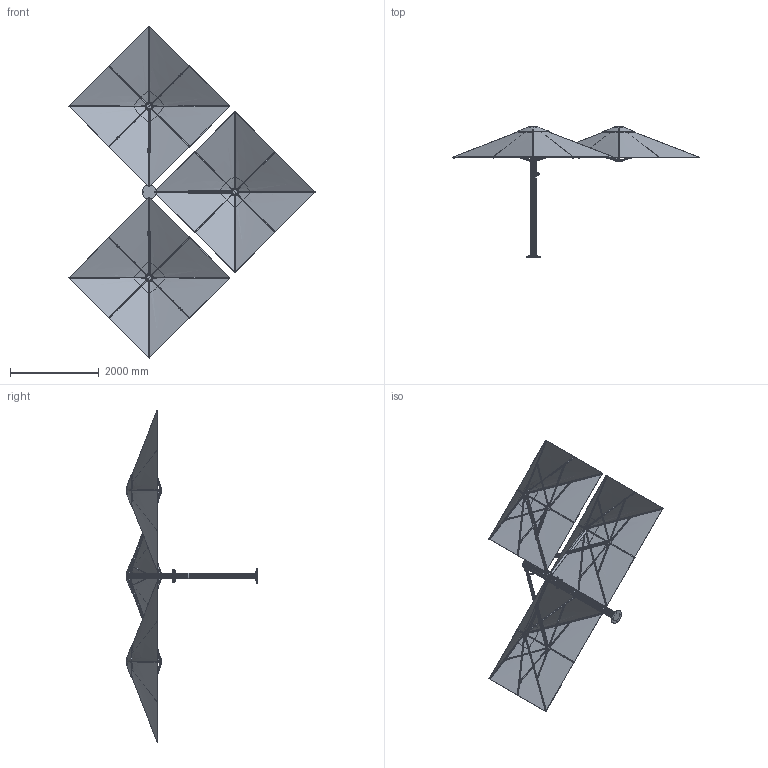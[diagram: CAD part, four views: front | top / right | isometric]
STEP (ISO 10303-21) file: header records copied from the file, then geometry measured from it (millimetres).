
FILE_DESCRIPTION (( 'STEP AP203' ), '1' );
FILE_NAME ('Unity 2.5M CNR SQ Trio.STEP', '2020-06-18T22:04:12', ( '' ), ( '' ), 'SwSTEP 2.0', 'SolidWorks 2017', '' );
FILE_SCHEMA (( 'CONFIG_CONTROL_DESIGN' ));
Length unit declared in the file: millimetre
Products named in the file (49): SMP_UM - 110096_PD; SMP_UM - 210023; SMP_UM - 110085; SMP_UM - 110185; SMP_UM - 110081; SMP_UM - 110184; SMP_UM - 110060; SMP_UM - 110059; SMP_UM - 110089; SMP_UM - 110110; Unity 2.5M CNR SQ Trio; SMP_UM - 110117; SMP_UM - 110079; SMP_UM - 110222; SMP_UM - 110182; SMP_UM - 110092; SMP_UM - 110094; SMP_UM - 110131; SMP_UM - 110123; socket button head cap screw_am_B18.3.4M - 5 x 0.8 x 16 SBHCS --N; SMP_UM - 110066; SMP_UM - 110116; SMP_UM - 110084; SMP_UM - 110069; SMP_UM - 110166; SMP_UM - 210043 - Gastec Spring_Extended; SMP_UM - 110088; SMP_UM - 110064; SMP_UM - 110168; SMP_UM - 110063; SMP_UM - 110126 (2); SMP_UM - 110102_Stretched; SMP_UM - 110070; SMP_UM - 210036; SMP_UM - 110080; SMP_UM - 110313_Default<As Machined>; SMP_UM - 110075; SMP_UM - 010024_Canopy Only-OPEN; SMP_UM - 110065; SMP_UM - 110083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
Assembly tree (71 placements, depth 4):
  Unity 2.5M CNR SQ Trio
    SMP_UM - 110116
      SMP_UM - 110112_ALL HOLES
    SMP_UM - 110123
      SMP_UM - 110313_Default<As Machined>
    SMP_UM - 110222
    SMP_UM - 110126 (2)
    SMP_UM - 010024_Canopy Only-OPEN  x3
      SMP_UM - 110059
        SMP_UM - 110081
        SMP_UM - 110080  x2
      SMP_UM - 110060
        SMP_UM - 110083
        SMP_UM - 110084
        SMP_UM - 210023
        socket button head cap screw_am_B18.3.4M - 5 x 0.8 x 16 SBHCS --N
        SMP_UM - 210036
        SMP_UM - 110085  x2
        SMP_UM - 110083b
      SMP_UM - 110064
        SMP_UM - 110092
      SMP_UM - 110063
        SMP_UM - 110092
        SMP_UM - 110093
        SMP_UM - 110094
        SMP_UM - 110110
      SMP_UM - 110166
        SMP_UM - 110182
        SMP_UM - 110089
        SMP_UM - 110088
        SMP_UM - 110131
      SMP_UM - 110206
        SMP_UM - 110183
        SMP_UM - 110089  x2
      SMP_UM - 110066
        SMP_UM - 110098
        SMP_UM - 110075
        SMP_UM - 110096_PD
        SMP_UM - 110102_Stretched
      SMP_UM - 210043 - Gastec Spring_Extended
      SMP_UM - 110207
        SMP_UM - 110184
        SMP_UM - 110088
        SMP_UM - 110131
      SMP_UM - 110167
        SMP_UM - 110185
        SMP_UM - 110089  x2
      SMP_UM - 110168
        SMP_UM - 110075
        SMP_UM - 110079
      SMP_UM - 010264 - 2.5M Fabric Canopy
    SMP_UM - 110117
    SMP_UM - 110065  x2
      SMP_UM - 110070
      SMP_UM - 110069
Bounding box: 5550.69 x 2943.5 x 7479.23 mm (x, y, z)
Volume: 122493207.9 mm3; surface area: 57588721.4 mm2
Topology: 222 solids, 228 shells, 4670 faces, 11484 edges, 7245 vertices
Faces by surface type: cylinder 1587, plane 1296, bspline 869, cone 700, torus 202, sphere 16
Entity records: 62624 total; most frequent: CARTESIAN_POINT 32895, ORIENTED_EDGE 5296, DIRECTION 4668, EDGE_CURVE 2648, AXIS2_PLACEMENT_3D 1862, VERTEX_POINT 1636, EDGE_LOOP 1130, FACE_OUTER_BOUND 1091
